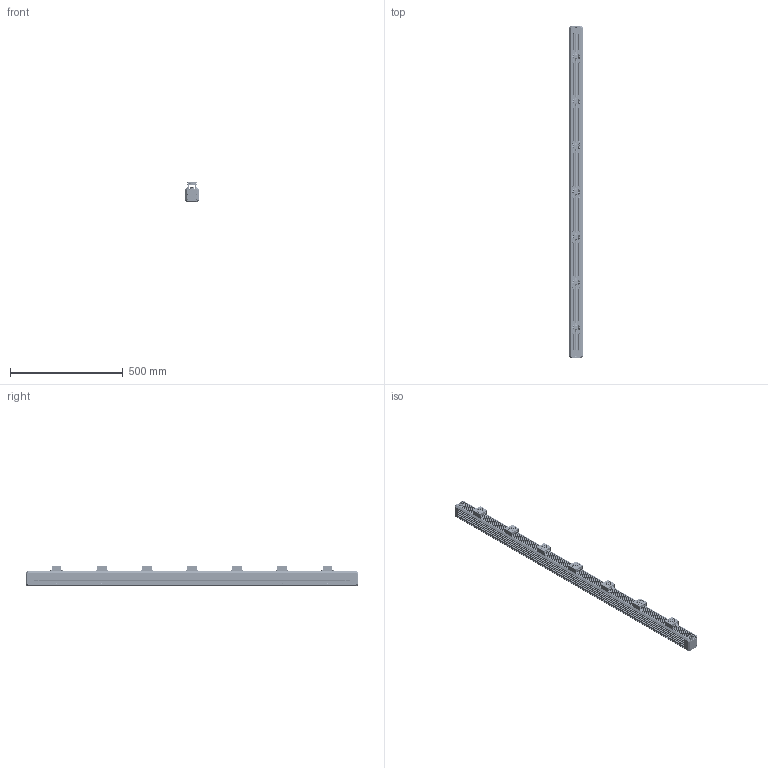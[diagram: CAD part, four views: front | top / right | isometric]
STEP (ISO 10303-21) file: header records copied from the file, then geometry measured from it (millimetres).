
FILE_DESCRIPTION((''),'2;1');
FILE_NAME('MV-LTDS-H-1400-W_ASM_1_ASM','2025-06-03T15:29:00',('huguozhe'),(''),'CREO PARAMETRIC BY PTC INC, 2020044','CREO PARAMETRIC BY PTC INC, 2020044','');
FILE_SCHEMA(('AUTOMOTIVE_DESIGN { 1 0 10303 214 1 1 1 1 }'));
Products named in the file (26): DE-15-000665_1; DE-15-000664_ASM_1_ASM; DE-15-000667_1; DE-15-000666_ASM_1_ASM; SC-HSCM3X6B-GB70_1_1; DE-12-001694_1; SC-AM3X10NL-BNI-SCM435-GB70_1_1; SC-HSCM3X8-SUS316_1; DE-11-019911_1; 8002-CLS-M3-1_1; DE-11-019911_ASM_1_ASM; 101800527_01_1; 101800527_02_1; 101800527_MGA4012HB-O10_ASM_1_ASM; SC-ASFM3X14NL-BNI-SUS316L_1; NUT-M4-GB6170_1; DE-14-015560_1_1_1; DE-14-016113_ASM_1_1_ASM_1_ASM; DE-14-016113_ASM_ASM_1_ASM; 19M-H_2_1_1_1; 19M-8H-8P_1_1; 19M-8H_ASM_1_ASM_1_ASM; 19M-8H_ASM_ASM_1_ASM; MV-LTDS-H-200-W_ASM_1_ASM_1_ASM; DE-14-016113-19M-8H_ASM; MV-LTDS-H-1400-W_ASM_1_ASM
Assembly tree (131 placements, depth 6):
  MV-LTDS-H-1400-W_ASM_1_ASM
    DE-15-000664_ASM_1_ASM
      DE-15-000665_1
    DE-15-000666_ASM_1_ASM  x2
      DE-15-000667_1
    SC-HSCM3X6B-GB70_1_1  x14
    DE-12-001694_1
    SC-AM3X10NL-BNI-SCM435-GB70_1_1  x36
    SC-HSCM3X8-SUS316_1  x8
    DE-11-019911_ASM_1_ASM  x7
      DE-11-019911_1
      8002-CLS-M3-1_1
    101800527_MGA4012HB-O10_ASM_1_ASM  x7
      101800527_01_1
      101800527_02_1
    SC-ASFM3X14NL-BNI-SUS316L_1  x28
    NUT-M4-GB6170_1  x8
    DE-14-016113-19M-8H_ASM  x2
      MV-LTDS-H-200-W_ASM_1_ASM_1_ASM
        DE-14-016113_ASM_ASM_1_ASM
          DE-14-016113_ASM_1_1_ASM_1_ASM
            DE-14-015560_1_1_1
        19M-8H_ASM_ASM_1_ASM
          19M-8H_ASM_1_ASM_1_ASM
            19M-H_2_1_1_1
            19M-8H-8P_1_1
Bounding box: 58 x 1470 x 90.6 mm (x, y, z)
Volume: 4517978.9 mm3; surface area: 1236053.8 mm2
Topology: 153 solids, 435 shells, 8359 faces, 22308 edges, 14395 vertices
Faces by surface type: plane 3771, cylinder 2970, cone 1092, torus 418, bspline 76, sphere 32
Entity records: 91024 total; most frequent: CARTESIAN_POINT 29239, DIRECTION 12131, ORIENTED_EDGE 10408, EDGE_CURVE 5434, AXIS2_PLACEMENT_3D 4762, VERTEX_POINT 3615, VECTOR 2607, LINE 2607
